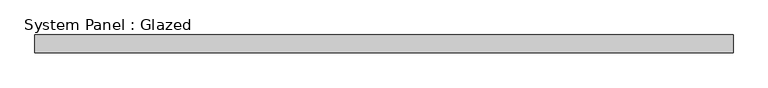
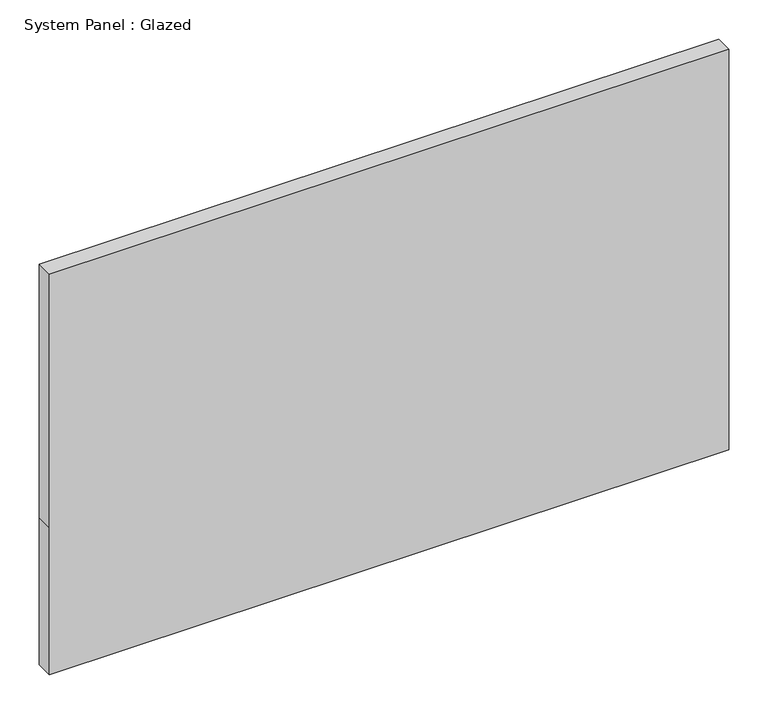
"""IFC4 building model written with IfcOpenShell, lengths in millimetres: plate geometry, System Panel : Glazed."""

import ifcopenshell
import ifcopenshell.guid

model = None  # the IFC model being written
_history = None  # IfcOwnerHistory: only IFC2X3 demands one
_inside = {}  # id of a spatial element -> (the spatial element, [elements in it])
_under = {}  # id of a project, library or spatial element -> (it, [spatial elements below it])
_declared = {}  # id of a project -> (the project, [libraries it declares])
_typed = {}  # id of a type object -> (the type object, [elements of that type])
_made_of = {}  # id of a material, layer set ... -> (it, [elements and type objects made of it])


def new_model(schema):
    """Start an empty IFC model of exactly this schema.

    Asked for "IFC4X3", IfcOpenShell would pick the latest addendum, in which some entities
    have other attributes; the version numbers below select the first issue.
    IFC2X3 requires an IfcOwnerHistory on every rooted entity: one is made here for all.
    """
    global model, _history
    if schema == "IFC4X3":
        model = ifcopenshell.file(schema_version=(4, 3, 0, 0))
    else:
        model = ifcopenshell.file(schema=schema)
    _inside.clear()
    _under.clear()
    _declared.clear()
    _typed.clear()
    _made_of.clear()
    _history = None
    if model.schema == "IFC2X3":
        org = make("IfcOrganization", Name="unknown")
        user = make(
            "IfcPersonAndOrganization",
            ThePerson=make("IfcPerson", FamilyName="unknown"),
            TheOrganization=org,
        )
        app = make(
            "IfcApplication",
            ApplicationDeveloper=org,
            Version="unknown",
            ApplicationFullName="unknown",
            ApplicationIdentifier="unknown",
        )
        _history = make(
            "IfcOwnerHistory",
            OwningUser=user,
            OwningApplication=app,
            ChangeAction="ADDED",
            CreationDate=0,
        )
    return model


def make(cls, **values):
    """One entity of the class cls with the attributes given. An attribute that is None is left unset."""
    return model.create_entity(
        cls, **{name: value for name, value in values.items() if value is not None}
    )


def rooted(cls, **values):
    """An entity with a GlobalId (a new one), such as an element, a storey or a relation."""
    return make(cls, GlobalId=ifcopenshell.guid.new(), OwnerHistory=_history, **values)


def si_unit(unit_type, name, prefix=None):
    """IfcSIUnit, for example si_unit("LENGTHUNIT", "METRE", prefix="MILLI")."""
    return make("IfcSIUnit", UnitType=unit_type, Prefix=prefix, Name=name)


def assignment(units):
    """IfcUnitAssignment: the units of a project."""
    return None if units is None else make("IfcUnitAssignment", Units=units)


def point(xyz):
    """IfcCartesianPoint."""
    return None if xyz is None else make("IfcCartesianPoint", Coordinates=xyz)


def direction(xyz):
    """IfcDirection."""
    return None if xyz is None else make("IfcDirection", DirectionRatios=xyz)


def frame(location, z_axis=None, x_axis=None):
    """IfcAxis2Placement3D, a coordinate frame: its origin and axes. An axis left out is left unset."""
    return make(
        "IfcAxis2Placement3D",
        Location=point(location),
        Axis=direction(z_axis),
        RefDirection=direction(x_axis),
    )


def origin():
    """The frame at (0, 0, 0) with its axes left unset."""
    return frame((0.0, 0.0, 0.0))


def place(relative_to, where):
    """IfcLocalPlacement: puts the frame where relative to a parent placement (None: the world)."""
    return make(
        "IfcLocalPlacement", PlacementRelTo=relative_to, RelativePlacement=where
    )


def context(
    kind, dimensions, precision=None, world=None, true_north=None, identifier=None
):
    """IfcGeometricRepresentationContext, for example the 3D "Model" context."""
    return make(
        "IfcGeometricRepresentationContext",
        ContextIdentifier=identifier,
        ContextType=kind,
        CoordinateSpaceDimension=dimensions,
        Precision=precision,
        WorldCoordinateSystem=world,
        TrueNorth=true_north,
    )


def project(units=None, contexts=None):
    """IfcProject with its units and contexts."""
    return rooted(
        "IfcProject",
        Name="project",
        RepresentationContexts=contexts,
        UnitsInContext=assignment(units),
    )


def spatial(cls, under=None, at=None, **own):
    """A site, building, storey or space (cls), placed at a placement, below another one or the project."""
    s = rooted(cls, ObjectPlacement=at, **own)
    if under is not None:
        _under.setdefault(under.id(), (under, []))[1].append(s)
    return s


def polyline(points):
    """IfcPolyline through the points."""
    return make("IfcPolyline", Points=[point(p) for p in points])


def outline(outer, holes=None, kind="AREA"):
    """IfcArbitraryClosedProfileDef: a profile drawn as a closed curve; with holes, ...WithVoids."""
    if holes is None:
        return make("IfcArbitraryClosedProfileDef", ProfileType=kind, OuterCurve=outer)
    return make(
        "IfcArbitraryProfileDefWithVoids",
        ProfileType=kind,
        OuterCurve=outer,
        InnerCurves=holes,
    )


def extrude(swept, where, along, depth):
    """IfcExtrudedAreaSolid: the profile swept, set in the frame where, extruded along a direction by depth."""
    return make(
        "IfcExtrudedAreaSolid",
        SweptArea=swept,
        Position=where,
        ExtrudedDirection=direction(along),
        Depth=depth,
    )


def shape(context_of_items, identifier, shape_type, items):
    """IfcShapeRepresentation: the items that make up one representation, for example the "Body"."""
    return make(
        "IfcShapeRepresentation",
        ContextOfItems=context_of_items,
        RepresentationIdentifier=identifier,
        RepresentationType=shape_type,
        Items=items,
    )


def source(mapping_origin, context_of_items, identifier, shape_type, items):
    """IfcRepresentationMap: a shape defined once, which mapped items show again and again."""
    return make(
        "IfcRepresentationMap",
        MappingOrigin=mapping_origin,
        MappedRepresentation=shape(context_of_items, identifier, shape_type, items),
    )


def transform(
    local_origin,
    x_axis=None,
    y_axis=None,
    z_axis=None,
    scale=None,
    scale2=None,
    scale3=None,
    uniform=True,
):
    """IfcCartesianTransformationOperator3D, or its non-uniform kind. x_axis, y_axis, z_axis: its Axis1, 2, 3."""
    if uniform:
        return make(
            "IfcCartesianTransformationOperator3D",
            Axis1=direction(x_axis),
            Axis2=direction(y_axis),
            LocalOrigin=point(local_origin),
            Scale=scale,
            Axis3=direction(z_axis),
        )
    return make(
        "IfcCartesianTransformationOperator3DnonUniform",
        Axis1=direction(x_axis),
        Axis2=direction(y_axis),
        LocalOrigin=point(local_origin),
        Scale=scale,
        Axis3=direction(z_axis),
        Scale2=scale2,
        Scale3=scale3,
    )


def mapped(mapping_source, mapping_target):
    """IfcMappedItem: shows the shape of a source again, moved by a transform."""
    return make(
        "IfcMappedItem", MappingSource=mapping_source, MappingTarget=mapping_target
    )


def made_of(thing, what):
    """Note that an element or type object is made of a material, layer set ...; save() writes the relation."""
    if what is not None:
        _made_of.setdefault(what.id(), (what, []))[1].append(thing)
    return thing


def element(
    cls,
    number,
    at=None,
    inside=None,
    cuts=None,
    type_object=None,
    material=None,
    context=None,
    identifier="Body",
    shape_type=None,
    held_by="IfcProductDefinitionShape",
    body=None,
    shapes=None,
    **own,
):
    """One element of the class cls, such as IfcWall. Its Tag is "e" and its number.

    at: its placement. inside: the storey or other place that contains it. cuts: it is an
    opening in that element (IfcRelVoidsElement). A single representation is given by context,
    identifier, shape_type and body (its items); several are given by shapes. held_by: the class
    of the entity that holds the representations. save() writes the other relations.
    """
    e = rooted(cls, Tag="e%d" % number, ObjectPlacement=at, **own)
    if body is not None:
        shapes = [shape(context, identifier, shape_type, body)]
    if shapes is not None:
        e.Representation = make(held_by, Representations=shapes)
    if inside is not None:
        _inside.setdefault(inside.id(), (inside, []))[1].append(e)
    if cuts is not None:
        rooted(
            "IfcRelVoidsElement", RelatingBuildingElement=cuts, RelatedOpeningElement=e
        )
    if type_object is not None:
        _typed.setdefault(type_object.id(), (type_object, []))[1].append(e)
    return made_of(e, material)


def aggregate(whole, parts):
    """IfcRelAggregates: a whole, such as a stair, and the parts it consists of."""
    return rooted("IfcRelAggregates", RelatingObject=whole, RelatedObjects=parts)


def save(model, path):
    """Write the relations noted so far, then the file.

    IfcRelAggregates (storeys below a building ...), IfcRelContainedInSpatialStructure (elements
    in a storey), IfcRelDefinesByType, IfcRelAssociatesMaterial and IfcRelDeclares: one each for
    every whole, place, type object, material and project.
    """
    for whole, parts in _under.values():
        aggregate(whole, parts)
    for where, things in _inside.values():
        rooted(
            "IfcRelContainedInSpatialStructure",
            RelatedElements=things,
            RelatingStructure=where,
        )
    for kind, things in _typed.values():
        rooted("IfcRelDefinesByType", RelatedObjects=things, RelatingType=kind)
    for what, things in _made_of.values():
        rooted("IfcRelAssociatesMaterial", RelatedObjects=things, RelatingMaterial=what)
    for by, libraries in _declared.values():
        rooted("IfcRelDeclares", RelatingContext=by, RelatedDefinitions=libraries)
    model.write(path)


def system_panel_glazed_f1cb86f2(model_context):
    return source(origin(), model_context, "Body", "SweptSolid", [
        extrude(outline(polyline([(0.0, -499.3821429), (0.0, 499.3821429), (228.6, 499.3821429), (622.3, 499.3821429), (622.3, -499.3821429), (228.6, -499.3821429), (0.0, -499.3821429)])), frame((0.0, 19.05, 0.0), z_axis=(0.0, 1.0, 0.0), x_axis=(0.0, 0.0, 1.0)), (0.0, 0.0, 1.0), 25.4),
    ])


if __name__ == "__main__":
    model = new_model("IFC4")
    model_context = context("Model", 3, world=origin())
    ifc_project = project(units=[si_unit("LENGTHUNIT", "METRE", prefix="MILLI")], contexts=[model_context])
    site = spatial("IfcSite", under=ifc_project)
    building = spatial("IfcBuilding", under=site)
    placement = place(None, origin())
    system_panel_glazed_shape = system_panel_glazed_f1cb86f2(model_context)
    element("IfcPlate", 1, ObjectType="System Panel : Glazed", at=placement, inside=building, context=model_context, shape_type="MappedRepresentation", body=[
        mapped(system_panel_glazed_shape, transform((0.0, 0.0, 0.0), x_axis=(1.0, 0.0, 0.0), y_axis=(0.0, 1.0, 0.0), z_axis=(0.0, 0.0, 1.0))),
    ])
    save(model, "model.ifc")
